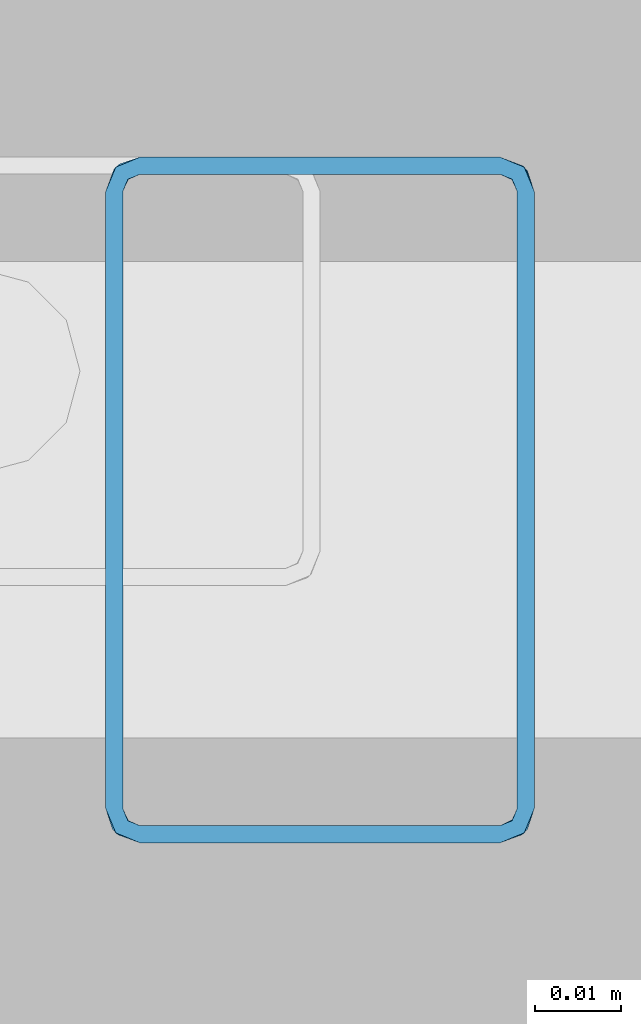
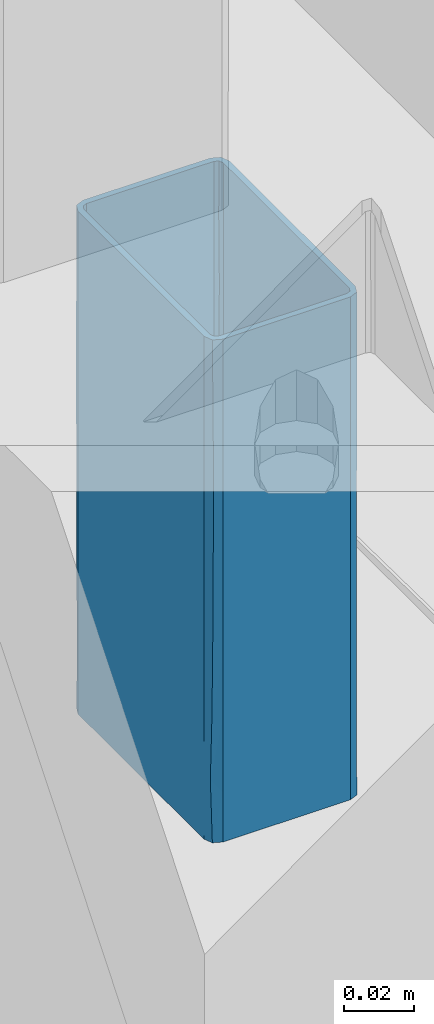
# One storey, part 144 of 186: 1 beam.
"""IFC4X3_ADD2 building model written with IfcOpenShell, lengths in millimetres."""

from ifc_helpers import new_model, si_unit, direction, frame, origin_with_axes, place, context, subcontext, project, spatial, polygons, element, save


model = new_model("IFC4X3_ADD2")

# Units and contexts
model_context = context("Model", 3, precision=1e-05, world=origin_with_axes(), true_north=direction((0.0, 1.0)))
body_context = subcontext(model_context, "Body", "Model", "MODEL_VIEW")
ifc_project = project(units=[si_unit("LENGTHUNIT", "METRE", prefix="MILLI"), si_unit("AREAUNIT", "SQUARE_METRE"), si_unit("VOLUMEUNIT", "CUBIC_METRE"), si_unit("PLANEANGLEUNIT", "RADIAN"), si_unit("TIMEUNIT", "SECOND"), si_unit("MASSUNIT", "GRAM")], contexts=[model_context])

# Site, building, storey
site_placement = place(None, origin_with_axes())
site = spatial("IfcSite", under=ifc_project, at=site_placement, Name="Site", CompositionType="ELEMENT")
building_placement = place(site_placement, origin_with_axes())
building = spatial("IfcBuilding", under=site, at=building_placement, Name="IFC Building Story")
storey_placement = place(building_placement, frame((0.0, 0.0, 4370.0), z_axis=(0.0, 0.0, 1.0), x_axis=(1.0, 0.0, 0.0)))
storey = spatial("IfcBuildingStorey", under=building, at=storey_placement, Name="ETAGE 10 (1)", Elevation=4370.0)

# Beam
beam_placement = place(storey_placement, frame((0.0, 0.0, -4370.0), z_axis=(0.0, 0.0, 1.0), x_axis=(1.0, 0.0, 0.0)))
element("IfcBeam", 1, at=beam_placement, inside=storey, Name="PS9", ObjectType="K50*80*2", context=body_context, shape_type="Tessellation", body=[
    polygons([(39853.18902040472, -14301.01914260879, 7528.810290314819), (39851.18902040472, -14301.01914260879, 7528.810290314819), (39853.77480684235, -14302.43335617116, 7528.810290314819), (39851.18902040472, -14229.01914260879, 7528.810290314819), (39853.18902040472, -14229.01914260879, 7528.810290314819), (39853.77480684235, -14227.60492904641, 7528.810290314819), (39852.36059327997, -14226.19071548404, 7528.810290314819), (39855.18902040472, -14225.01914260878, 7528.810290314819), (39855.18902040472, -14227.01914260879, 7528.810290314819), (39897.18902040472, -14227.01914260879, 7528.810290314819), (39897.18902040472, -14225.01914260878, 7528.810290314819), (39898.60323396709, -14227.60492904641, 7528.810290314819), (39900.01744752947, -14226.19071548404, 7528.810290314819), (39901.18902040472, -14229.01914260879, 7528.810290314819), (39899.18902040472, -14229.01914260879, 7528.810290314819), (39899.18902040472, -14301.01914260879, 7528.810290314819), (39901.18902040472, -14301.01914260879, 7528.810290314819), (39898.60323396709, -14302.43335617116, 7528.810290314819), (39900.01744752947, -14303.84756973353, 7528.810290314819), (39897.18902040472, -14305.01914260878, 7528.810290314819), (39897.18902040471, -14303.01914260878, 7528.810290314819), (39855.18902040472, -14305.01914260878, 7528.810290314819), (39855.18902040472, -14303.01914260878, 7528.810290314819), (39852.36059327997, -14303.84756973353, 7528.810290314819), (39899.18902040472, -14301.01914260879, 7353.41029031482), (39901.18902040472, -14301.01914260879, 7353.41029031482), (39898.60323396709, -14302.43335617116, 7353.41029031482), (39901.18902040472, -14229.01914260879, 7353.41029031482), (39899.18902040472, -14229.01914260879, 7353.41029031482), (39898.60323396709, -14227.60492904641, 7353.41029031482), (39900.01744752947, -14226.19071548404, 7353.41029031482), (39897.18902040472, -14225.01914260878, 7353.41029031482), (39897.18902040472, -14227.01914260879, 7353.41029031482), (39855.18902040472, -14227.01914260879, 7353.41029031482), (39855.18902040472, -14225.01914260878, 7353.41029031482), (39853.77480684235, -14227.60492904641, 7353.41029031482), (39852.36059327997, -14226.19071548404, 7353.41029031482), (39851.18902040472, -14229.01914260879, 7353.41029031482), (39853.18902040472, -14229.01914260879, 7353.41029031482), (39853.18902040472, -14301.01914260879, 7353.41029031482), (39851.18902040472, -14301.01914260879, 7353.41029031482), (39853.77480684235, -14302.43335617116, 7353.41029031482), (39852.36059327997, -14303.84756973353, 7353.41029031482), (39855.18902040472, -14305.01914260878, 7353.41029031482), (39855.18902040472, -14303.01914260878, 7353.41029031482), (39897.18902040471, -14305.01914260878, 7353.41029031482), (39897.18902040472, -14303.01914260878, 7353.41029031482), (39900.01744752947, -14303.84756973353, 7353.41029031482), (39851.18902040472, -14229.01914260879, 7511.35176800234), (39851.18902040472, -14229.01914260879, 7484.96029031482), (39851.18902040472, -14229.01914260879, 7463.03529031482), (39851.18902040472, -14229.01914260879, 7441.110290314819), (39851.18902040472, -14229.01914260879, 7419.185290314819), (39851.18902040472, -14229.01914260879, 7397.26029031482), (39851.18902040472, -14229.01914260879, 7370.868812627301), (39851.18902040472, -14301.01914260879, 7388.327335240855), (39851.18902040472, -14301.01914260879, 7406.19324419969), (39851.18902040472, -14301.01914260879, 7432.584721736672), (39851.18902040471, -14301.01914260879, 7458.976199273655), (39851.18902040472, -14301.01914260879, 7476.434721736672), (39851.18902040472, -14301.01914260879, 7493.89324419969), (39852.27330903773, -14303.75750475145, 7397.260292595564), (39855.18902040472, -14305.01914260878, 7419.185290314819), (39852.49036666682, -14303.97164459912, 7430.147792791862), (39855.18902040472, -14305.01914260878, 7397.26029031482), (39851.96517637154, -14303.38701710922, 7375.256384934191), (39855.18902040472, -14305.01914260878, 7370.868813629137), (39852.5391279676, -14304.01548539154, 7498.156029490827), (39855.18902040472, -14305.01914260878, 7441.110290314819), (39855.18902040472, -14305.01914260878, 7511.351767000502), (39852.55305022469, -14304.02774048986, 7454.738124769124), (39852.60615070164, -14304.07344843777, 7476.448793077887), (39855.18902040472, -14305.01914260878, 7484.96029031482), (39855.18902040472, -14305.01914260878, 7463.03529031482), (39897.18902040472, -14305.01914260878, 7370.86881305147), (39897.18902040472, -14305.01914260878, 7397.26029031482), (39897.18902040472, -14305.01914260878, 7419.185290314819), (39897.18902040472, -14305.01914260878, 7441.110290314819), (39897.18902040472, -14305.01914260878, 7463.03529031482), (39897.18902040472, -14305.01914260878, 7484.96029031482), (39897.18902040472, -14305.01914260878, 7511.35176757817), (39901.18902040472, -14301.01914260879, 7388.327335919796), (39899.83891276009, -14304.01548546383, 7384.064555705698), (39900.10473176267, -14303.75750476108, 7484.960291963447), (39900.41286439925, -14303.38701716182, 7506.964197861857), (39899.88767416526, -14303.97164457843, 7452.07279271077), (39901.18902040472, -14301.01914260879, 7476.027335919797), (39901.18902040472, -14301.01914260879, 7493.893244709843), (39899.8249906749, -14304.02774041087, 7427.482462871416), (39901.18902040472, -14301.01914260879, 7423.244381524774), (39901.18902040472, -14301.01914260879, 7449.635858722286), (39901.18902040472, -14301.01914260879, 7405.785858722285), (39899.77189039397, -14304.07344819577, 7405.771793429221), (39901.18902040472, -14229.01914260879, 7388.327335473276), (39901.18902040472, -14229.01914260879, 7414.718812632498), (39901.18902040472, -14229.01914260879, 7441.110290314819), (39901.18902040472, -14229.01914260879, 7463.03529031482), (39901.18902040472, -14229.01914260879, 7484.96029031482), (39901.18902040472, -14229.01914260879, 7511.351767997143), (39900.18536316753, -14226.36925014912, 7498.156030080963), (39900.04053304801, -14226.21399098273, 7471.566908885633), (39897.18902040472, -14225.01914260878, 7493.893244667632), (39900.01744765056, -14226.19071560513, 7397.260294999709), (39900.40257989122, -14226.63732913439, 7375.335293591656), (39897.18902040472, -14225.01914260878, 7388.327335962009), (39897.18902040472, -14225.01914260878, 7406.19324394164), (39899.84319494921, -14226.02659227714, 7445.780463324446), (39899.9358619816, -14226.11141818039, 7421.625940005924), (39897.18902040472, -14225.01914260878, 7432.584720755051), (39897.18902040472, -14225.01914260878, 7458.976197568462), (39855.18902040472, -14225.01914260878, 7388.327335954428), (39855.18902040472, -14225.01914260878, 7406.193244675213), (39855.18902040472, -14225.01914260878, 7432.584721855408), (39855.18902040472, -14225.01914260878, 7458.976199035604), (39855.18902040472, -14225.01914260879, 7476.434721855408), (39855.18902040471, -14225.01914260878, 7493.893244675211), (39852.45065829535, -14226.10343121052, 7397.260293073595), (39852.23651842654, -14226.32048885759, 7430.147793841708), (39852.82114591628, -14225.79529856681, 7375.256385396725), (39852.19267763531, -14226.36925015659, 7498.156029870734), (39852.18042254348, -14226.38317240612, 7454.738125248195), (39852.13471460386, -14226.43627287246, 7476.448793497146), (39855.18902040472, -14227.01914260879, 7479.430131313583), (39853.77480688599, -14227.60492900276, 7485.602651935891), (39853.77480687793, -14227.60492901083, 7472.397284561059), (39853.77000533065, -14227.60974691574, 7384.994628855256), (39853.6935629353, -14227.69113396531, 7371.927851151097), (39855.18902040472, -14227.01914260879, 7372.570210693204), (39853.18902040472, -14229.01914260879, 7419.185290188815), (39853.18902040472, -14229.01914260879, 7408.222790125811), (39853.72649008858, -14227.65495601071, 7413.704042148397), (39853.73642430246, -14227.64438278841, 7448.567533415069), (39853.18902040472, -14229.01914260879, 7441.110290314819), (39853.88525638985, -14227.50250178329, 7437.383846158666), (39855.18902040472, -14227.01914260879, 7454.740051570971), (39853.84806014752, -14227.53528763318, 7460.412453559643), (39855.18902040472, -14227.01914260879, 7391.730131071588), (39853.18902040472, -14229.01914260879, 7365.755329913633), (39853.18902040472, -14229.01914260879, 7516.465250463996), (39853.18902040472, -14229.01914260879, 7491.77517126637), (39853.18902040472, -14229.01914260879, 7479.430131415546), (39855.18902040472, -14227.01914260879, 7491.775170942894), (39853.82280305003, -14227.5585091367, 7497.947691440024), (39853.83051627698, -14227.55133249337, 7396.71874799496), (39853.18902040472, -14229.01914260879, 7397.26029031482), (39855.18902040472, -14227.01914260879, 7516.465250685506), (39853.77480686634, -14227.60492902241, 7510.292730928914), (39855.18902040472, -14227.01914260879, 7504.120210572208), (39853.18902040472, -14229.01914260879, 7504.120210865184), (39853.18902040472, -14229.01914260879, 7378.100369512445), (39853.18902040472, -14229.01914260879, 7460.270210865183), (39855.18902040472, -14227.01914260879, 7467.085091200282), (39853.69769861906, -14227.68649136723, 7426.261011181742), (39855.18902040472, -14227.01914260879, 7410.890051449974), (39855.18902040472, -14227.01914260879, 7430.049971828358), (39853.18902040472, -14229.01914260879, 7430.147790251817), (39855.18902040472, -14227.01914260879, 7442.395011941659), (39897.18902040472, -14227.01914260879, 7365.755330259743), (39897.18902040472, -14227.01914260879, 7378.100369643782), (39897.18902040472, -14227.01914260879, 7397.260290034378), (39897.18902040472, -14227.01914260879, 7408.222789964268), (39897.18902040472, -14227.01914260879, 7419.185289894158), (39897.18902040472, -14227.01914260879, 7430.147789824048), (39897.18902040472, -14227.01914260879, 7441.110290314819), (39897.18902040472, -14227.01914260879, 7452.072790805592), (39897.18902040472, -14227.01914260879, 7463.035290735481), (39897.18902040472, -14227.01914260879, 7473.997790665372), (39897.18902040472, -14227.01914260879, 7484.960290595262), (39897.18902040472, -14227.01914260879, 7504.120210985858), (39897.18902040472, -14227.01914260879, 7516.465250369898), (39898.70566120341, -14227.71537856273, 7444.836737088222), (39898.56378019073, -14227.56654647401, 7433.653049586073), (39899.18902040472, -14229.01914260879, 7439.825568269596), (39898.59841610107, -14227.60012753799, 7497.225954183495), (39898.6568304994, -14227.66063845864, 7485.501835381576), (39899.18902040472, -14229.01914260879, 7490.490449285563), (39898.5170290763, -14227.52368516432, 7510.292731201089), (39899.18902040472, -14229.01914260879, 7509.650370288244), (39898.60323396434, -14227.60492904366, 7385.133218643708), (39898.60323395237, -14227.60492903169, 7371.927850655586), (39899.18902040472, -14229.01914260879, 7378.100369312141), (39899.18902040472, -14229.01914260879, 7365.755330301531), (39899.18902040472, -14229.01914260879, 7427.480529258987), (39898.66431878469, -14227.66877425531, 7421.638538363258), (39898.55320697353, -14227.55661226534, 7468.5165412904), (39898.52167162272, -14227.52782080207, 7455.95957216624), (39899.18902040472, -14229.01914260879, 7390.445409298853), (39898.53490426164, -14227.53975197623, 7402.741541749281), (39899.18902040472, -14229.01914260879, 7452.170608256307), (39899.18902040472, -14229.01914260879, 7471.330528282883), (39899.18902040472, -14229.01914260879, 7402.790449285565), (39899.18902040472, -14229.01914260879, 7415.135489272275), (39899.18902040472, -14301.01914260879, 7365.755329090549), (39899.18902040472, -14301.01914260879, 7375.335290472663), (39899.18902040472, -14301.01914260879, 7386.297790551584), (39899.18902040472, -14301.01914260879, 7397.260290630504), (39899.18902040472, -14301.01914260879, 7408.222790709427), (39899.18902040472, -14301.01914260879, 7419.185290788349), (39899.18902040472, -14301.01914260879, 7430.147790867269), (39899.18902040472, -14301.01914260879, 7441.110290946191), (39899.18902040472, -14301.01914260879, 7452.072791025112), (39899.18902040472, -14301.01914260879, 7463.035291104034), (39899.18902040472, -14301.01914260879, 7473.997791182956), (39899.18902040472, -14301.01914260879, 7484.960291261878), (39899.18902040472, -14301.01914260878, 7504.120211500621), (39899.18902040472, -14301.01914260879, 7516.465250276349), (39898.69729622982, -14302.33257476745, 7403.991095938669), (39898.66464788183, -14302.36915133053, 7391.779041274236), (39898.61357853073, -14302.42293538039, 7446.851607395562), (39898.51381434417, -14302.51744865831, 7459.400227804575), (39897.18902040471, -14303.01914260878, 7378.100369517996), (39898.7692654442, -14302.24504049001, 7381.118364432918), (39898.60323397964, -14302.43335615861, 7370.545310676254), (39898.68447785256, -14302.34715127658, 7510.292731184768), (39897.18902040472, -14303.01914260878, 7509.650369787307), (39897.18902040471, -14303.01914260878, 7390.445409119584), (39897.18902040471, -14303.01914260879, 7402.790448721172), (39898.52662301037, -14302.50602500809, 7421.308009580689), (39897.18902040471, -14303.01914260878, 7365.755329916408), (39898.60803548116, -14302.42853829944, 7497.225954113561), (39898.59808333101, -14302.43848811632, 7434.380258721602), (39897.18902040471, -14303.01914260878, 7427.480527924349), (39897.18902040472, -14303.01914260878, 7415.135488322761), (39897.18902040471, -14303.01914260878, 7439.825568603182), (39897.18902040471, -14303.01914260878, 7452.17060820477), (39897.18902040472, -14303.01914260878, 7490.490449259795), (39898.52015993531, -14302.51181388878, 7479.47904107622), (39897.18902040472, -14303.01914260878, 7471.330528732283), (39855.18902040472, -14303.01914260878, 7365.755330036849), (39855.18902040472, -14303.01914260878, 7378.100369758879), (39855.18902040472, -14303.01914260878, 7390.445409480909), (39855.18902040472, -14303.01914260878, 7402.790449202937), (39855.18902040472, -14303.01914260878, 7415.135488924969), (39855.18902040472, -14303.01914260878, 7427.480528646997), (39855.18902040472, -14303.01914260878, 7439.825568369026), (39855.18902040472, -14303.01914260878, 7452.170608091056), (39855.18902040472, -14303.01914260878, 7471.330528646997), (39855.18902040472, -14303.01914260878, 7490.490449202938), (39855.18902040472, -14303.01914260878, 7509.650369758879), (39853.77000531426, -14302.42853828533, 7497.225954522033), (39853.69356294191, -14302.34715125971, 7510.292731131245), (39853.8480600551, -14302.50299750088, 7421.808131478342), (39853.73642420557, -14302.39390232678, 7433.653050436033), (39853.77480688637, -14302.4333562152, 7371.927853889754), (39853.77480690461, -14302.43335623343, 7385.133219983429), (39853.18902040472, -14301.01914260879, 7378.100370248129), (39853.18902040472, -14301.01914260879, 7463.035290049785), (39853.18902040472, -14301.01914260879, 7473.997790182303), (39853.72649001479, -14302.38332912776, 7468.516541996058), (39853.18902040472, -14301.01914260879, 7516.465250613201), (39853.18902040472, -14301.01914260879, 7365.755330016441), (39853.8852562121, -14302.53578328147, 7444.83673813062), (39853.83051621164, -14302.48695266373, 7485.501836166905), (39853.18902040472, -14301.01914260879, 7484.96029031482), (39853.18902040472, -14301.01914260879, 7390.445409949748), (39853.7130589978, -14302.36878623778, 7397.096792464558), (39853.18902040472, -14301.01914260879, 7504.120210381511), (39853.76931803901, -14302.42784598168, 7409.063177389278), (39853.69769857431, -14302.35179380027, 7455.959573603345), (39853.18902040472, -14301.01914260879, 7452.072790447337), (39853.18902040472, -14301.01914260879, 7441.110290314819), (39853.18902040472, -14301.01914260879, 7421.950369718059), (39853.18902040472, -14301.01914260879, 7402.790449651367)], [[[1, 2, 3]], [[2, 1, 4]], [[5, 4, 1]], [[6, 4, 5]], [[7, 4, 6]], [[6, 8, 7]], [[6, 9, 8]], [[8, 9, 10]], [[10, 11, 8]], [[10, 12, 11]], [[11, 12, 13]], [[14, 13, 12]], [[14, 12, 15]], [[14, 15, 16]], [[16, 17, 14]], [[18, 17, 16]], [[17, 18, 19]], [[18, 20, 19]], [[21, 20, 18]], [[20, 21, 22]], [[23, 22, 21]], [[3, 22, 23]], [[22, 3, 24]], [[3, 2, 24]], [[25, 26, 27]], [[26, 25, 28]], [[29, 28, 25]], [[30, 28, 29]], [[31, 28, 30]], [[30, 32, 31]], [[30, 33, 32]], [[32, 33, 34]], [[34, 35, 32]], [[34, 36, 35]], [[35, 36, 37]], [[38, 37, 36]], [[38, 36, 39]], [[38, 39, 40]], [[40, 41, 38]], [[42, 41, 40]], [[41, 42, 43]], [[42, 44, 43]], [[45, 44, 42]], [[44, 45, 46]], [[47, 46, 45]], [[27, 46, 47]], [[46, 27, 48]], [[27, 26, 48]], [[55, 38, 41]], [[56, 57, 54]], [[54, 55, 41]], [[54, 41, 56]], [[57, 53, 54]], [[57, 58, 52]], [[57, 52, 53]], [[58, 59, 51]], [[58, 51, 52]], [[59, 60, 50]], [[59, 50, 51]], [[61, 2, 49]], [[61, 49, 50]], [[50, 60, 61]], [[2, 4, 49]], [[62, 63, 64]], [[65, 66, 67]], [[2, 61, 68]], [[64, 63, 69]], [[70, 22, 24]], [[43, 44, 67]], [[62, 56, 66]], [[71, 59, 58]], [[57, 56, 62]], [[62, 66, 65]], [[24, 2, 68]], [[60, 59, 72, 61]], [[41, 43, 66]], [[58, 64, 71]], [[64, 57, 62]], [[73, 70, 68]], [[62, 65, 63]], [[64, 69, 71]], [[64, 58, 57]], [[71, 69, 74]], [[41, 66, 56]], [[67, 66, 43]], [[24, 68, 70]], [[71, 72, 59]], [[68, 72, 73]], [[72, 68, 61]], [[72, 74, 73]], [[74, 72, 71]], [[67, 44, 46]], [[67, 46, 75]], [[75, 76, 65]], [[75, 65, 67]], [[76, 77, 63]], [[76, 63, 65]], [[77, 78, 69]], [[77, 69, 63]], [[78, 79, 74]], [[78, 74, 69]], [[79, 80, 73]], [[79, 73, 74]], [[80, 81, 70]], [[80, 70, 73]], [[81, 20, 22]], [[81, 22, 70]], [[26, 82, 83]], [[84, 85, 80]], [[86, 84, 79]], [[87, 88, 84]], [[86, 79, 78]], [[80, 85, 81]], [[84, 88, 85]], [[48, 26, 83]], [[84, 80, 79]], [[89, 90, 91]], [[92, 90, 93, 82]], [[17, 19, 85]], [[91, 86, 89]], [[75, 83, 76]], [[86, 87, 84]], [[75, 46, 48]], [[19, 20, 81]], [[86, 78, 89]], [[86, 91, 87]], [[89, 78, 77]], [[17, 85, 88]], [[81, 85, 19]], [[48, 83, 75]], [[89, 93, 90]], [[83, 93, 76]], [[93, 83, 82]], [[93, 77, 76]], [[77, 93, 89]], [[82, 26, 28]], [[82, 28, 94]], [[94, 95, 92]], [[94, 92, 82]], [[95, 90, 92]], [[95, 96, 91]], [[95, 91, 90]], [[97, 98, 87]], [[87, 91, 96]], [[87, 96, 97]], [[98, 88, 87]], [[99, 14, 17]], [[17, 88, 98]], [[17, 98, 99]], [[99, 98, 100]], [[101, 102, 100]], [[103, 94, 104]], [[11, 13, 100]], [[31, 104, 28]], [[103, 95, 94]], [[105, 106, 103]], [[97, 107, 101]], [[13, 99, 100]], [[32, 105, 104]], [[108, 107, 96]], [[103, 104, 105]], [[108, 106, 109]], [[107, 108, 109]], [[110, 107, 109]], [[13, 14, 99]], [[28, 104, 94]], [[104, 31, 32]], [[101, 107, 110]], [[108, 96, 95]], [[102, 101, 110]], [[97, 96, 107]], [[95, 103, 108]], [[106, 108, 103]], [[101, 100, 98]], [[100, 102, 11]], [[101, 98, 97]], [[105, 32, 35]], [[105, 35, 111]], [[111, 112, 106]], [[111, 106, 105]], [[112, 113, 109]], [[112, 109, 106]], [[113, 114, 110]], [[113, 110, 109]], [[115, 116, 102]], [[102, 110, 114]], [[102, 114, 115]], [[116, 8, 11]], [[116, 11, 102]], [[117, 53, 118]], [[54, 119, 55]], [[8, 116, 120]], [[118, 53, 52]], [[49, 4, 7]], [[37, 38, 55]], [[117, 111, 119]], [[121, 114, 113]], [[112, 111, 117]], [[117, 119, 54]], [[7, 8, 120]], [[115, 114, 122, 116]], [[35, 37, 119]], [[113, 118, 121]], [[118, 112, 117]], [[50, 49, 120]], [[117, 54, 53]], [[118, 52, 121]], [[118, 113, 112]], [[121, 52, 51]], [[35, 119, 111]], [[55, 119, 37]], [[7, 120, 49]], [[121, 122, 114]], [[120, 122, 50]], [[122, 120, 116]], [[122, 51, 50]], [[51, 122, 121]], [[123, 124, 125]], [[126, 127, 128]], [[129, 130, 131]], [[132, 133, 134]], [[132, 135, 136]], [[126, 128, 137]], [[138, 39, 36]], [[6, 5, 139]], [[36, 127, 138]], [[125, 124, 140, 141]], [[142, 143, 124]], [[144, 145, 126]], [[142, 124, 123]], [[146, 147, 148]], [[140, 143, 149]], [[127, 36, 34]], [[138, 127, 150]], [[146, 9, 6]], [[147, 6, 139]], [[6, 147, 146]], [[143, 147, 149]], [[143, 142, 148]], [[149, 147, 139]], [[132, 151, 133]], [[152, 123, 125]], [[125, 141, 151]], [[126, 150, 127]], [[34, 128, 127]], [[126, 145, 150]], [[153, 131, 154]], [[124, 143, 140]], [[147, 143, 148]], [[130, 145, 144]], [[135, 152, 136]], [[144, 126, 137]], [[155, 153, 154]], [[144, 137, 154]], [[153, 129, 131]], [[144, 131, 130]], [[154, 131, 144]], [[156, 129, 153]], [[132, 134, 157]], [[135, 132, 157]], [[155, 134, 153]], [[151, 132, 136]], [[136, 125, 151]], [[125, 136, 152]], [[157, 134, 155]], [[133, 156, 134]], [[156, 153, 134]], [[158, 159, 128]], [[128, 34, 33]], [[128, 33, 158]], [[159, 160, 137]], [[159, 137, 128]], [[160, 161, 154]], [[160, 154, 137]], [[162, 163, 155]], [[162, 155, 154]], [[154, 161, 162]], [[163, 164, 157]], [[163, 157, 155]], [[164, 165, 135]], [[164, 135, 157]], [[165, 166, 152]], [[165, 152, 135]], [[166, 167, 123]], [[166, 123, 152]], [[167, 168, 142]], [[167, 142, 123]], [[168, 169, 148]], [[168, 148, 142]], [[169, 170, 146]], [[169, 146, 148]], [[170, 10, 9]], [[170, 9, 146]], [[171, 172, 173]], [[174, 175, 176]], [[158, 33, 30]], [[12, 10, 170]], [[177, 15, 12]], [[178, 15, 177]], [[179, 180, 181]], [[182, 180, 30]], [[183, 172, 184]], [[169, 174, 177]], [[185, 166, 186]], [[169, 177, 170]], [[179, 187, 188]], [[29, 182, 30]], [[179, 181, 187]], [[159, 180, 179]], [[182, 181, 180]], [[177, 174, 178]], [[30, 180, 158]], [[180, 159, 158]], [[179, 160, 159]], [[179, 188, 160]], [[173, 189, 171]], [[170, 177, 12]], [[176, 178, 174]], [[168, 175, 174]], [[174, 169, 168]], [[175, 190, 176]], [[185, 186, 190]], [[190, 175, 185]], [[168, 167, 175]], [[167, 185, 175]], [[185, 167, 166]], [[189, 190, 186]], [[172, 183, 173]], [[186, 165, 171]], [[161, 160, 188]], [[171, 165, 164]], [[172, 163, 184]], [[191, 192, 188, 187]], [[162, 161, 184, 163]], [[184, 188, 192]], [[161, 188, 184]], [[192, 183, 184]], [[172, 171, 164]], [[186, 166, 165]], [[186, 171, 189]], [[172, 164, 163]], [[182, 29, 25]], [[182, 25, 193]], [[193, 194, 181]], [[193, 181, 182]], [[194, 195, 187]], [[194, 187, 181]], [[196, 197, 191]], [[191, 187, 195]], [[191, 195, 196]], [[197, 198, 192]], [[197, 192, 191]], [[198, 199, 183]], [[198, 183, 192]], [[199, 200, 173]], [[199, 173, 183]], [[200, 201, 189]], [[200, 189, 173]], [[202, 203, 190]], [[190, 189, 201]], [[190, 201, 202]], [[203, 204, 176]], [[203, 176, 190]], [[204, 205, 178]], [[204, 178, 176]], [[206, 16, 15]], [[206, 15, 178]], [[178, 205, 206]], [[207, 196, 208]], [[201, 209, 210]], [[211, 212, 213]], [[214, 21, 18]], [[215, 21, 214]], [[216, 217, 208]], [[207, 218, 197]], [[27, 219, 213]], [[205, 220, 214]], [[200, 221, 209]], [[205, 214, 206]], [[212, 195, 194]], [[193, 27, 213, 194]], [[193, 25, 27]], [[18, 16, 206]], [[214, 220, 215]], [[27, 47, 219]], [[213, 219, 211]], [[195, 212, 208]], [[195, 208, 196]], [[217, 207, 208]], [[211, 216, 212]], [[222, 221, 218]], [[198, 197, 218, 199]], [[223, 218, 207]], [[222, 218, 223]], [[207, 217, 223]], [[221, 199, 218]], [[224, 225, 209]], [[221, 224, 209]], [[206, 214, 18]], [[226, 215, 220]], [[226, 220, 227]], [[220, 205, 204]], [[202, 201, 210, 203]], [[203, 227, 204]], [[221, 222, 224]], [[227, 210, 228]], [[210, 209, 225]], [[210, 225, 228]], [[210, 227, 203]], [[204, 227, 220]], [[227, 228, 226]], [[216, 208, 212]], [[213, 212, 194]], [[197, 196, 207]], [[201, 200, 209]], [[221, 200, 199]], [[219, 47, 45]], [[219, 45, 229]], [[229, 230, 211]], [[229, 211, 219]], [[230, 231, 216]], [[230, 216, 211]], [[231, 232, 217]], [[231, 217, 216]], [[232, 233, 223]], [[232, 223, 217]], [[233, 234, 222]], [[233, 222, 223]], [[234, 235, 224]], [[234, 224, 222]], [[235, 236, 225]], [[235, 225, 224]], [[236, 237, 228]], [[236, 228, 225]], [[237, 238, 226]], [[237, 226, 228]], [[238, 239, 215]], [[238, 215, 226]], [[239, 23, 21]], [[239, 21, 215]], [[240, 241, 239]], [[242, 243, 234]], [[230, 229, 244]], [[245, 244, 246]], [[234, 243, 235]], [[247, 248, 249]], [[250, 1, 3]], [[40, 251, 42]], [[239, 238, 240]], [[252, 235, 243]], [[3, 241, 250]], [[253, 254, 240]], [[245, 255, 256]], [[42, 244, 229]], [[241, 3, 23]], [[250, 241, 257]], [[229, 45, 42]], [[251, 246, 244]], [[42, 251, 244]], [[230, 244, 245]], [[231, 230, 245]], [[256, 258, 232]], [[240, 257, 241]], [[23, 239, 241]], [[240, 254, 257]], [[259, 249, 237]], [[248, 254, 253]], [[232, 231, 256]], [[245, 246, 255]], [[253, 240, 238]], [[236, 259, 237]], [[253, 238, 237]], [[259, 247, 249]], [[253, 249, 248]], [[237, 249, 253]], [[260, 247, 259]], [[261, 252, 243]], [[243, 262, 261]], [[236, 252, 259]], [[242, 258, 262]], [[262, 243, 242]], [[263, 262, 258]], [[242, 233, 258]], [[233, 232, 258]], [[242, 234, 233]], [[256, 263, 258]], [[263, 256, 255]], [[231, 245, 256]], [[235, 252, 236]], [[261, 260, 252]], [[260, 259, 252]], [[251, 40, 39]], [[251, 39, 138]], [[138, 150, 246]], [[138, 246, 251]], [[150, 145, 255]], [[150, 255, 246]], [[145, 130, 263]], [[145, 263, 255]], [[130, 129, 262]], [[130, 262, 263]], [[156, 133, 261]], [[156, 261, 262]], [[262, 129, 156]], [[133, 151, 260]], [[133, 260, 261]], [[151, 247, 260]], [[151, 141, 248]], [[151, 248, 247]], [[141, 254, 248]], [[140, 149, 257]], [[140, 257, 254]], [[254, 141, 140]], [[149, 139, 250]], [[149, 250, 257]], [[139, 5, 1]], [[139, 1, 250]]]),
])

save(model, "model.ifc")
